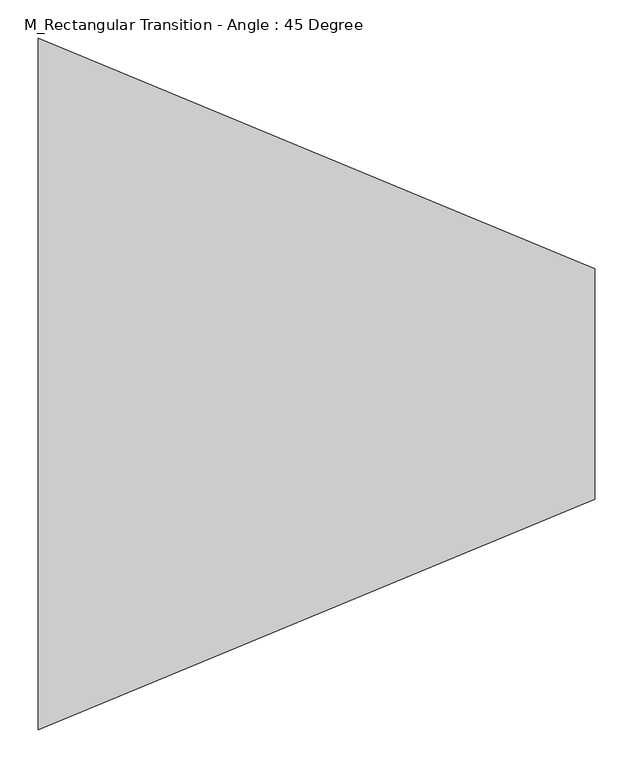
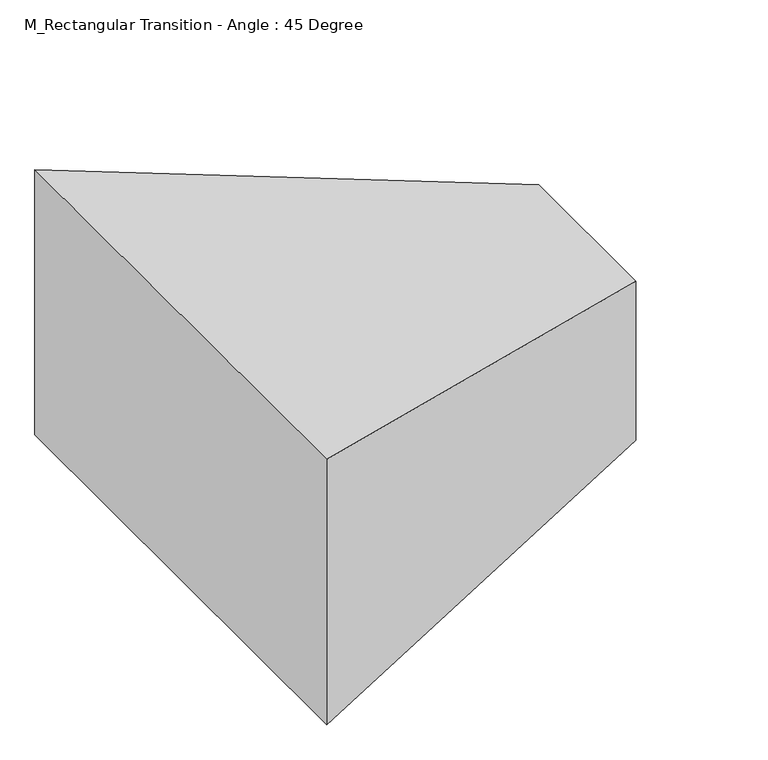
"""IFC4 building model written with IfcOpenShell, lengths in millimetres: duct fitting geometry, M_Rectangular Transition - Angle : 45 Degree."""

from ifc_helpers import new_model, si_unit, origin, place, context, project, spatial, faceted_brep, source, transform, mapped, element, save


def m_rectangular_transition_angle_45_degree_1d3f6ee8(model_context):
    return source(origin(), model_context, "Body", "Brep", [
        faceted_brep([(724.2640687, -150.0, 150.0), (724.2640687, -150.0, -150.0), (724.2640687, 150.0, -150.0), (724.2640687, 150.0, 150.0), (0.0, -450.0, 250.0), (0.0, 450.0, 250.0), (0.0, 450.0, -250.0), (0.0, -450.0, -250.0)], [[[0, 1, 2, 3]], [[4, 5, 6, 7]], [[4, 7, 1, 0]], [[7, 6, 2, 1]], [[6, 5, 3, 2]], [[5, 4, 0, 3]]]),
        faceted_brep([(724.2640687, -150.0, 150.0), (724.2640687, -150.0, -150.0), (724.2640687, 150.0, -150.0), (724.2640687, 150.0, 150.0), (0.0, -450.0, 250.0), (0.0, 450.0, 250.0), (0.0, 450.0, -250.0), (0.0, -450.0, -250.0)], [[[0, 1, 2, 3]], [[4, 5, 6, 7]], [[4, 7, 1, 0]], [[7, 6, 2, 1]], [[6, 5, 3, 2]], [[5, 4, 0, 3]]]),
        faceted_brep([(724.2640687, -150.0, 150.0), (724.2640687, -150.0, -150.0), (724.2640687, 150.0, -150.0), (724.2640687, 150.0, 150.0), (0.0, -450.0, 250.0), (0.0, 450.0, 250.0), (0.0, 450.0, -250.0), (0.0, -450.0, -250.0)], [[[0, 1, 2, 3]], [[4, 5, 6, 7]], [[4, 7, 1, 0]], [[7, 6, 2, 1]], [[6, 5, 3, 2]], [[5, 4, 0, 3]]]),
    ])


if __name__ == "__main__":
    model = new_model("IFC4")
    model_context = context("Model", 3, world=origin())
    ifc_project = project(units=[si_unit("LENGTHUNIT", "METRE", prefix="MILLI")], contexts=[model_context])
    site = spatial("IfcSite", under=ifc_project)
    building = spatial("IfcBuilding", under=site)
    placement = place(None, origin())
    m_rectangular_transition_angle_45_degree_shape = m_rectangular_transition_angle_45_degree_1d3f6ee8(model_context)
    element("IfcDuctFitting", 1, ObjectType="M_Rectangular Transition - Angle : 45 Degree", at=placement, inside=building, context=model_context, shape_type="MappedRepresentation", body=[
        mapped(m_rectangular_transition_angle_45_degree_shape, transform((0.0, 0.0, 0.0), x_axis=(1.0, 0.0, 0.0), y_axis=(0.0, 1.0, 0.0), z_axis=(0.0, 0.0, 1.0))),
    ])
    save(model, "model.ifc")
